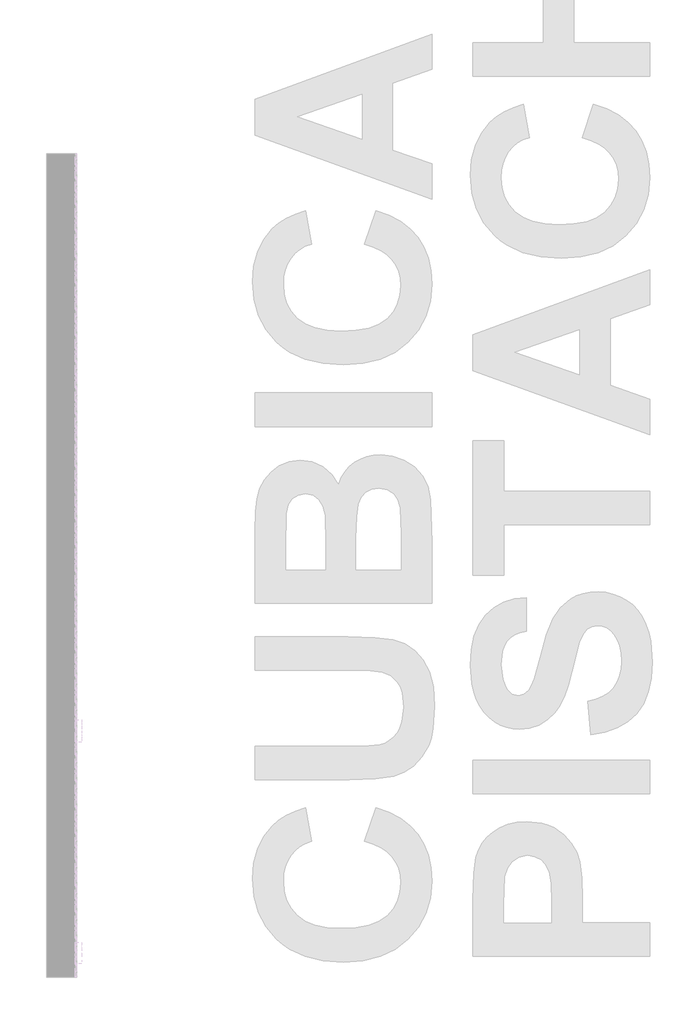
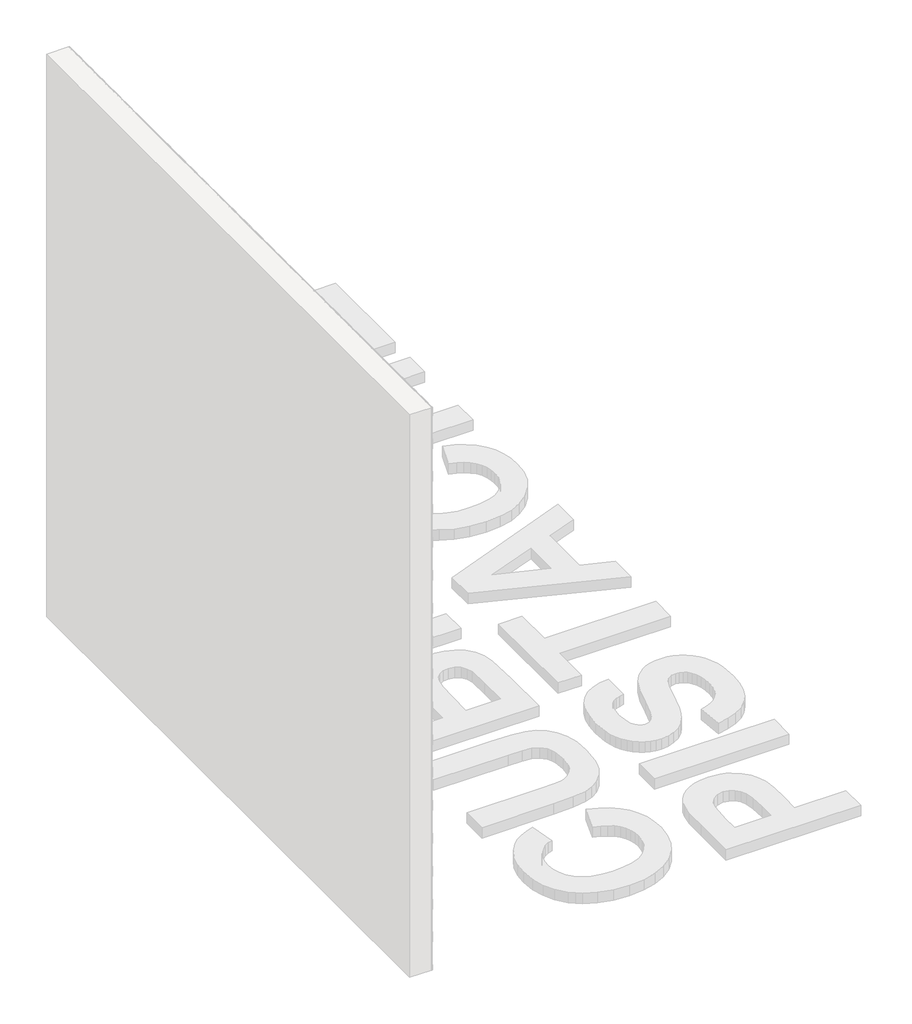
# One storey, part 78 of 121: 145 proxies.
"""IFC4 building model written with IfcOpenShell, lengths in millimetres."""

from ifc_helpers import new_model, si_unit, origin, place, context, project, spatial, transform, mapped, element, save
from components import generic_models_b2b2c5c1, generic_models_9bf73f6f, generic_models_5d175859

model = new_model("IFC4")

# Units and contexts
model_context = context("Model", 3, world=origin())
ifc_project = project(units=[si_unit("LENGTHUNIT", "METRE", prefix="MILLI")], contexts=[model_context])

# Site, building, storey
site = spatial("IfcSite", under=ifc_project)
building = spatial("IfcBuilding", under=site)
storey = spatial("IfcBuildingStorey", under=building, Name="PORTOBELLO - SHOWROOM", Elevation=0.0)

# Proxies
placement = place(None, origin())
generic_models_shape = generic_models_b2b2c5c1(model_context)
element("IfcBuildingElementProxy", 1, Name="PBSHOP - CUBICA PISTACHE 4,8X8,3 : CUBICA PISTACHE - POSIÇÃO 01", ObjectType="PBSHOP - CUBICA PISTACHE 4,8X8,3 : CUBICA PISTACHE - POSIÇÃO 01", at=placement, inside=storey, context=model_context, shape_type="MappedRepresentation", body=[
    mapped(generic_models_shape, transform((150369.5341846, 13614.1011688, 828.7685506), x_axis=(0.0, 1.0, 0.0), y_axis=(0.0, 0.0, 1.0), z_axis=(1.0, 0.0, 0.0))),
])
element("IfcBuildingElementProxy", 2, Name="PBSHOP - CUBICA PISTACHE 4,8X8,3 : CUBICA PISTACHE - POSIÇÃO 01", ObjectType="PBSHOP - CUBICA PISTACHE 4,8X8,3 : CUBICA PISTACHE - POSIÇÃO 01", at=placement, inside=storey, context=model_context, shape_type="MappedRepresentation", body=[
    mapped(generic_models_shape, transform((150369.5341846, 13704.940438, 828.7685506), x_axis=(0.0, 1.0, 0.0), y_axis=(0.0, 0.0, 1.0), z_axis=(1.0, 0.0, 0.0))),
])
element("IfcBuildingElementProxy", 3, Name="PBSHOP - CUBICA PISTACHE 4,8X8,3 : CUBICA PISTACHE - POSIÇÃO 01", ObjectType="PBSHOP - CUBICA PISTACHE 4,8X8,3 : CUBICA PISTACHE - POSIÇÃO 01", at=placement, inside=storey, context=model_context, shape_type="MappedRepresentation", body=[
    mapped(generic_models_shape, transform((150369.5341846, 13795.7797073, 828.7685506), x_axis=(0.0, 1.0, 0.0), y_axis=(0.0, 0.0, 1.0), z_axis=(1.0, 0.0, 0.0))),
])
element("IfcBuildingElementProxy", 4, Name="PBSHOP - CUBICA PISTACHE 4,8X8,3 : CUBICA PISTACHE - POSIÇÃO 01", ObjectType="PBSHOP - CUBICA PISTACHE 4,8X8,3 : CUBICA PISTACHE - POSIÇÃO 01", at=placement, inside=storey, context=model_context, shape_type="MappedRepresentation", body=[
    mapped(generic_models_shape, transform((150369.5341846, 13886.6189765, 828.7685506), x_axis=(0.0, 1.0, 0.0), y_axis=(0.0, 0.0, 1.0), z_axis=(1.0, 0.0, 0.0))),
])
element("IfcBuildingElementProxy", 5, Name="PBSHOP - CUBICA PISTACHE 4,8X8,3 : CUBICA PISTACHE - POSIÇÃO 01", ObjectType="PBSHOP - CUBICA PISTACHE 4,8X8,3 : CUBICA PISTACHE - POSIÇÃO 01", at=placement, inside=storey, context=model_context, shape_type="MappedRepresentation", body=[
    mapped(generic_models_shape, transform((150369.5341846, 13977.4582457, 828.7685506), x_axis=(0.0, 1.0, 0.0), y_axis=(0.0, 0.0, 1.0), z_axis=(1.0, 0.0, 0.0))),
])
element("IfcBuildingElementProxy", 6, Name="PBSHOP - CUBICA PISTACHE 4,8X8,3 : CUBICA PISTACHE - POSIÇÃO 01", ObjectType="PBSHOP - CUBICA PISTACHE 4,8X8,3 : CUBICA PISTACHE - POSIÇÃO 01", at=placement, inside=storey, context=model_context, shape_type="MappedRepresentation", body=[
    mapped(generic_models_shape, transform((150369.5341846, 13023.6459187, 907.7031889), x_axis=(0.0, 1.0, 0.0), y_axis=(0.0, 0.0, 1.0), z_axis=(1.0, 0.0, 0.0))),
])
element("IfcBuildingElementProxy", 7, Name="PBSHOP - CUBICA PISTACHE 4,8X8,3 : CUBICA PISTACHE - POSIÇÃO 01", ObjectType="PBSHOP - CUBICA PISTACHE 4,8X8,3 : CUBICA PISTACHE - POSIÇÃO 01", at=placement, inside=storey, context=model_context, shape_type="MappedRepresentation", body=[
    mapped(generic_models_shape, transform((150369.5341846, 13114.4851879, 907.7031889), x_axis=(0.0, 1.0, 0.0), y_axis=(0.0, 0.0, 1.0), z_axis=(1.0, 0.0, 0.0))),
])
element("IfcBuildingElementProxy", 8, Name="PBSHOP - CUBICA PISTACHE 4,8X8,3 : CUBICA PISTACHE - POSIÇÃO 01", ObjectType="PBSHOP - CUBICA PISTACHE 4,8X8,3 : CUBICA PISTACHE - POSIÇÃO 01", at=placement, inside=storey, context=model_context, shape_type="MappedRepresentation", body=[
    mapped(generic_models_shape, transform((150369.5341846, 13205.3244572, 907.7031889), x_axis=(0.0, 1.0, 0.0), y_axis=(0.0, 0.0, 1.0), z_axis=(1.0, 0.0, 0.0))),
])
element("IfcBuildingElementProxy", 9, Name="PBSHOP - CUBICA PISTACHE 4,8X8,3 : CUBICA PISTACHE - POSIÇÃO 01", ObjectType="PBSHOP - CUBICA PISTACHE 4,8X8,3 : CUBICA PISTACHE - POSIÇÃO 01", at=placement, inside=storey, context=model_context, shape_type="MappedRepresentation", body=[
    mapped(generic_models_shape, transform((150369.5341846, 13296.1637264, 907.7031889), x_axis=(0.0, 1.0, 0.0), y_axis=(0.0, 0.0, 1.0), z_axis=(1.0, 0.0, 0.0))),
])
element("IfcBuildingElementProxy", 10, Name="PBSHOP - CUBICA PISTACHE 4,8X8,3 : CUBICA PISTACHE - POSIÇÃO 01", ObjectType="PBSHOP - CUBICA PISTACHE 4,8X8,3 : CUBICA PISTACHE - POSIÇÃO 01", at=placement, inside=storey, context=model_context, shape_type="MappedRepresentation", body=[
    mapped(generic_models_shape, transform((150369.5341846, 13387.0029957, 907.7031889), x_axis=(0.0, 1.0, 0.0), y_axis=(0.0, 0.0, 1.0), z_axis=(1.0, 0.0, 0.0))),
])
element("IfcBuildingElementProxy", 11, Name="PBSHOP - CUBICA PISTACHE 4,8X8,3 : CUBICA PISTACHE - POSIÇÃO 01", ObjectType="PBSHOP - CUBICA PISTACHE 4,8X8,3 : CUBICA PISTACHE - POSIÇÃO 01", at=placement, inside=storey, context=model_context, shape_type="MappedRepresentation", body=[
    mapped(generic_models_shape, transform((150369.5341846, 13477.8422649, 907.7031889), x_axis=(0.0, 1.0, 0.0), y_axis=(0.0, 0.0, 1.0), z_axis=(1.0, 0.0, 0.0))),
])
element("IfcBuildingElementProxy", 12, Name="PBSHOP - CUBICA PISTACHE 4,8X8,3 : CUBICA PISTACHE - POSIÇÃO 01", ObjectType="PBSHOP - CUBICA PISTACHE 4,8X8,3 : CUBICA PISTACHE - POSIÇÃO 01", at=placement, inside=storey, context=model_context, shape_type="MappedRepresentation", body=[
    mapped(generic_models_shape, transform((150369.5341846, 13568.6815341, 907.7031889), x_axis=(0.0, 1.0, 0.0), y_axis=(0.0, 0.0, 1.0), z_axis=(1.0, 0.0, 0.0))),
])
element("IfcBuildingElementProxy", 13, Name="PBSHOP - CUBICA PISTACHE 4,8X8,3 : CUBICA PISTACHE - POSIÇÃO 01", ObjectType="PBSHOP - CUBICA PISTACHE 4,8X8,3 : CUBICA PISTACHE - POSIÇÃO 01", at=placement, inside=storey, context=model_context, shape_type="MappedRepresentation", body=[
    mapped(generic_models_shape, transform((150369.5341846, 13659.5208034, 907.7031889), x_axis=(0.0, 1.0, 0.0), y_axis=(0.0, 0.0, 1.0), z_axis=(1.0, 0.0, 0.0))),
])
element("IfcBuildingElementProxy", 14, Name="PBSHOP - CUBICA PISTACHE 4,8X8,3 : CUBICA PISTACHE - POSIÇÃO 01", ObjectType="PBSHOP - CUBICA PISTACHE 4,8X8,3 : CUBICA PISTACHE - POSIÇÃO 01", at=placement, inside=storey, context=model_context, shape_type="MappedRepresentation", body=[
    mapped(generic_models_shape, transform((150369.5341846, 13750.3600726, 907.7031889), x_axis=(0.0, 1.0, 0.0), y_axis=(0.0, 0.0, 1.0), z_axis=(1.0, 0.0, 0.0))),
])
element("IfcBuildingElementProxy", 15, Name="PBSHOP - CUBICA PISTACHE 4,8X8,3 : CUBICA PISTACHE - POSIÇÃO 01", ObjectType="PBSHOP - CUBICA PISTACHE 4,8X8,3 : CUBICA PISTACHE - POSIÇÃO 01", at=placement, inside=storey, context=model_context, shape_type="MappedRepresentation", body=[
    mapped(generic_models_shape, transform((150369.5341846, 13841.1993419, 907.7031889), x_axis=(0.0, 1.0, 0.0), y_axis=(0.0, 0.0, 1.0), z_axis=(1.0, 0.0, 0.0))),
])
element("IfcBuildingElementProxy", 16, Name="PBSHOP - CUBICA PISTACHE 4,8X8,3 : CUBICA PISTACHE - POSIÇÃO 01", ObjectType="PBSHOP - CUBICA PISTACHE 4,8X8,3 : CUBICA PISTACHE - POSIÇÃO 01", at=placement, inside=storey, context=model_context, shape_type="MappedRepresentation", body=[
    mapped(generic_models_shape, transform((150369.5341846, 13932.0386111, 907.7031889), x_axis=(0.0, 1.0, 0.0), y_axis=(0.0, 0.0, 1.0), z_axis=(1.0, 0.0, 0.0))),
])
element("IfcBuildingElementProxy", 17, Name="PBSHOP - CUBICA PISTACHE 4,8X8,3 : CUBICA PISTACHE - POSIÇÃO 01", ObjectType="PBSHOP - CUBICA PISTACHE 4,8X8,3 : CUBICA PISTACHE - POSIÇÃO 01", at=placement, inside=storey, context=model_context, shape_type="MappedRepresentation", body=[
    mapped(generic_models_shape, transform((150369.5341846, 13069.0655533, 986.6378273), x_axis=(0.0, 1.0, 0.0), y_axis=(0.0, 0.0, 1.0), z_axis=(1.0, 0.0, 0.0))),
])
element("IfcBuildingElementProxy", 18, Name="PBSHOP - CUBICA PISTACHE 4,8X8,3 : CUBICA PISTACHE - POSIÇÃO 01", ObjectType="PBSHOP - CUBICA PISTACHE 4,8X8,3 : CUBICA PISTACHE - POSIÇÃO 01", at=placement, inside=storey, context=model_context, shape_type="MappedRepresentation", body=[
    mapped(generic_models_shape, transform((150369.5341846, 13159.9048225, 986.6378273), x_axis=(0.0, 1.0, 0.0), y_axis=(0.0, 0.0, 1.0), z_axis=(1.0, 0.0, 0.0))),
])
element("IfcBuildingElementProxy", 19, Name="PBSHOP - CUBICA PISTACHE 4,8X8,3 : CUBICA PISTACHE - POSIÇÃO 01", ObjectType="PBSHOP - CUBICA PISTACHE 4,8X8,3 : CUBICA PISTACHE - POSIÇÃO 01", at=placement, inside=storey, context=model_context, shape_type="MappedRepresentation", body=[
    mapped(generic_models_shape, transform((150369.5341846, 13250.7440918, 986.6378273), x_axis=(0.0, 1.0, 0.0), y_axis=(0.0, 0.0, 1.0), z_axis=(1.0, 0.0, 0.0))),
])
element("IfcBuildingElementProxy", 20, Name="PBSHOP - CUBICA PISTACHE 4,8X8,3 : CUBICA PISTACHE - POSIÇÃO 01", ObjectType="PBSHOP - CUBICA PISTACHE 4,8X8,3 : CUBICA PISTACHE - POSIÇÃO 01", at=placement, inside=storey, context=model_context, shape_type="MappedRepresentation", body=[
    mapped(generic_models_shape, transform((150369.5341846, 13341.583361, 986.6378273), x_axis=(0.0, 1.0, 0.0), y_axis=(0.0, 0.0, 1.0), z_axis=(1.0, 0.0, 0.0))),
])
element("IfcBuildingElementProxy", 21, Name="PBSHOP - CUBICA PISTACHE 4,8X8,3 : CUBICA PISTACHE - POSIÇÃO 01", ObjectType="PBSHOP - CUBICA PISTACHE 4,8X8,3 : CUBICA PISTACHE - POSIÇÃO 01", at=placement, inside=storey, context=model_context, shape_type="MappedRepresentation", body=[
    mapped(generic_models_shape, transform((150369.5341846, 13432.4226303, 986.6378273), x_axis=(0.0, 1.0, 0.0), y_axis=(0.0, 0.0, 1.0), z_axis=(1.0, 0.0, 0.0))),
])
element("IfcBuildingElementProxy", 22, Name="PBSHOP - CUBICA PISTACHE 4,8X8,3 : CUBICA PISTACHE - POSIÇÃO 01", ObjectType="PBSHOP - CUBICA PISTACHE 4,8X8,3 : CUBICA PISTACHE - POSIÇÃO 01", at=placement, inside=storey, context=model_context, shape_type="MappedRepresentation", body=[
    mapped(generic_models_shape, transform((150369.5341846, 13523.2618995, 986.6378273), x_axis=(0.0, 1.0, 0.0), y_axis=(0.0, 0.0, 1.0), z_axis=(1.0, 0.0, 0.0))),
])
element("IfcBuildingElementProxy", 23, Name="PBSHOP - CUBICA PISTACHE 4,8X8,3 : CUBICA PISTACHE - POSIÇÃO 01", ObjectType="PBSHOP - CUBICA PISTACHE 4,8X8,3 : CUBICA PISTACHE - POSIÇÃO 01", at=placement, inside=storey, context=model_context, shape_type="MappedRepresentation", body=[
    mapped(generic_models_shape, transform((150369.5341846, 13614.1011688, 986.6378273), x_axis=(0.0, 1.0, 0.0), y_axis=(0.0, 0.0, 1.0), z_axis=(1.0, 0.0, 0.0))),
])
element("IfcBuildingElementProxy", 24, Name="PBSHOP - CUBICA PISTACHE 4,8X8,3 : CUBICA PISTACHE - POSIÇÃO 01", ObjectType="PBSHOP - CUBICA PISTACHE 4,8X8,3 : CUBICA PISTACHE - POSIÇÃO 01", at=placement, inside=storey, context=model_context, shape_type="MappedRepresentation", body=[
    mapped(generic_models_shape, transform((150369.5341846, 13704.940438, 986.6378273), x_axis=(0.0, 1.0, 0.0), y_axis=(0.0, 0.0, 1.0), z_axis=(1.0, 0.0, 0.0))),
])
element("IfcBuildingElementProxy", 25, Name="PBSHOP - CUBICA PISTACHE 4,8X8,3 : CUBICA PISTACHE - POSIÇÃO 01", ObjectType="PBSHOP - CUBICA PISTACHE 4,8X8,3 : CUBICA PISTACHE - POSIÇÃO 01", at=placement, inside=storey, context=model_context, shape_type="MappedRepresentation", body=[
    mapped(generic_models_shape, transform((150369.5341846, 13795.7797073, 986.6378273), x_axis=(0.0, 1.0, 0.0), y_axis=(0.0, 0.0, 1.0), z_axis=(1.0, 0.0, 0.0))),
])
element("IfcBuildingElementProxy", 26, Name="PBSHOP - CUBICA PISTACHE 4,8X8,3 : CUBICA PISTACHE - POSIÇÃO 01", ObjectType="PBSHOP - CUBICA PISTACHE 4,8X8,3 : CUBICA PISTACHE - POSIÇÃO 01", at=placement, inside=storey, context=model_context, shape_type="MappedRepresentation", body=[
    mapped(generic_models_shape, transform((150369.5341846, 13886.6189765, 986.6378273), x_axis=(0.0, 1.0, 0.0), y_axis=(0.0, 0.0, 1.0), z_axis=(1.0, 0.0, 0.0))),
])
element("IfcBuildingElementProxy", 27, Name="PBSHOP - CUBICA PISTACHE 4,8X8,3 : CUBICA PISTACHE - POSIÇÃO 01", ObjectType="PBSHOP - CUBICA PISTACHE 4,8X8,3 : CUBICA PISTACHE - POSIÇÃO 01", at=placement, inside=storey, context=model_context, shape_type="MappedRepresentation", body=[
    mapped(generic_models_shape, transform((150369.5341846, 13977.4582457, 986.6378273), x_axis=(0.0, 1.0, 0.0), y_axis=(0.0, 0.0, 1.0), z_axis=(1.0, 0.0, 0.0))),
])
element("IfcBuildingElementProxy", 28, Name="PBSHOP - CUBICA PISTACHE 4,8X8,3 : CUBICA PISTACHE - POSIÇÃO 01", ObjectType="PBSHOP - CUBICA PISTACHE 4,8X8,3 : CUBICA PISTACHE - POSIÇÃO 01", at=placement, inside=storey, context=model_context, shape_type="MappedRepresentation", body=[
    mapped(generic_models_shape, transform((150369.5341846, 13023.6459187, 1065.5724657), x_axis=(0.0, 1.0, 0.0), y_axis=(0.0, 0.0, 1.0), z_axis=(1.0, 0.0, 0.0))),
])
element("IfcBuildingElementProxy", 29, Name="PBSHOP - CUBICA PISTACHE 4,8X8,3 : CUBICA PISTACHE - POSIÇÃO 01", ObjectType="PBSHOP - CUBICA PISTACHE 4,8X8,3 : CUBICA PISTACHE - POSIÇÃO 01", at=placement, inside=storey, context=model_context, shape_type="MappedRepresentation", body=[
    mapped(generic_models_shape, transform((150369.5341846, 13114.4851879, 1065.5724657), x_axis=(0.0, 1.0, 0.0), y_axis=(0.0, 0.0, 1.0), z_axis=(1.0, 0.0, 0.0))),
])
element("IfcBuildingElementProxy", 30, Name="PBSHOP - CUBICA PISTACHE 4,8X8,3 : CUBICA PISTACHE - POSIÇÃO 01", ObjectType="PBSHOP - CUBICA PISTACHE 4,8X8,3 : CUBICA PISTACHE - POSIÇÃO 01", at=placement, inside=storey, context=model_context, shape_type="MappedRepresentation", body=[
    mapped(generic_models_shape, transform((150369.5341846, 13205.3244572, 1065.5724657), x_axis=(0.0, 1.0, 0.0), y_axis=(0.0, 0.0, 1.0), z_axis=(1.0, 0.0, 0.0))),
])
element("IfcBuildingElementProxy", 31, Name="PBSHOP - CUBICA PISTACHE 4,8X8,3 : CUBICA PISTACHE - POSIÇÃO 01", ObjectType="PBSHOP - CUBICA PISTACHE 4,8X8,3 : CUBICA PISTACHE - POSIÇÃO 01", at=placement, inside=storey, context=model_context, shape_type="MappedRepresentation", body=[
    mapped(generic_models_shape, transform((150369.5341846, 13296.1637264, 1065.5724657), x_axis=(0.0, 1.0, 0.0), y_axis=(0.0, 0.0, 1.0), z_axis=(1.0, 0.0, 0.0))),
])
element("IfcBuildingElementProxy", 32, Name="PBSHOP - CUBICA PISTACHE 4,8X8,3 : CUBICA PISTACHE - POSIÇÃO 01", ObjectType="PBSHOP - CUBICA PISTACHE 4,8X8,3 : CUBICA PISTACHE - POSIÇÃO 01", at=placement, inside=storey, context=model_context, shape_type="MappedRepresentation", body=[
    mapped(generic_models_shape, transform((150369.5341846, 13387.0029957, 1065.5724657), x_axis=(0.0, 1.0, 0.0), y_axis=(0.0, 0.0, 1.0), z_axis=(1.0, 0.0, 0.0))),
])
element("IfcBuildingElementProxy", 33, Name="PBSHOP - CUBICA PISTACHE 4,8X8,3 : CUBICA PISTACHE - POSIÇÃO 01", ObjectType="PBSHOP - CUBICA PISTACHE 4,8X8,3 : CUBICA PISTACHE - POSIÇÃO 01", at=placement, inside=storey, context=model_context, shape_type="MappedRepresentation", body=[
    mapped(generic_models_shape, transform((150369.5341846, 13477.8422649, 1065.5724657), x_axis=(0.0, 1.0, 0.0), y_axis=(0.0, 0.0, 1.0), z_axis=(1.0, 0.0, 0.0))),
])
element("IfcBuildingElementProxy", 34, Name="PBSHOP - CUBICA PISTACHE 4,8X8,3 : CUBICA PISTACHE - POSIÇÃO 01", ObjectType="PBSHOP - CUBICA PISTACHE 4,8X8,3 : CUBICA PISTACHE - POSIÇÃO 01", at=placement, inside=storey, context=model_context, shape_type="MappedRepresentation", body=[
    mapped(generic_models_shape, transform((150369.5341846, 13568.6815341, 1065.5724657), x_axis=(0.0, 1.0, 0.0), y_axis=(0.0, 0.0, 1.0), z_axis=(1.0, 0.0, 0.0))),
])
element("IfcBuildingElementProxy", 35, Name="PBSHOP - CUBICA PISTACHE 4,8X8,3 : CUBICA PISTACHE - POSIÇÃO 01", ObjectType="PBSHOP - CUBICA PISTACHE 4,8X8,3 : CUBICA PISTACHE - POSIÇÃO 01", at=placement, inside=storey, context=model_context, shape_type="MappedRepresentation", body=[
    mapped(generic_models_shape, transform((150369.5341846, 13659.5208034, 1065.5724657), x_axis=(0.0, 1.0, 0.0), y_axis=(0.0, 0.0, 1.0), z_axis=(1.0, 0.0, 0.0))),
])
element("IfcBuildingElementProxy", 36, Name="PBSHOP - CUBICA PISTACHE 4,8X8,3 : CUBICA PISTACHE - POSIÇÃO 01", ObjectType="PBSHOP - CUBICA PISTACHE 4,8X8,3 : CUBICA PISTACHE - POSIÇÃO 01", at=placement, inside=storey, context=model_context, shape_type="MappedRepresentation", body=[
    mapped(generic_models_shape, transform((150369.5341846, 13750.3600726, 1065.5724657), x_axis=(0.0, 1.0, 0.0), y_axis=(0.0, 0.0, 1.0), z_axis=(1.0, 0.0, 0.0))),
])
element("IfcBuildingElementProxy", 37, Name="PBSHOP - CUBICA PISTACHE 4,8X8,3 : CUBICA PISTACHE - POSIÇÃO 01", ObjectType="PBSHOP - CUBICA PISTACHE 4,8X8,3 : CUBICA PISTACHE - POSIÇÃO 01", at=placement, inside=storey, context=model_context, shape_type="MappedRepresentation", body=[
    mapped(generic_models_shape, transform((150369.5341846, 13841.1993419, 1065.5724657), x_axis=(0.0, 1.0, 0.0), y_axis=(0.0, 0.0, 1.0), z_axis=(1.0, 0.0, 0.0))),
])
element("IfcBuildingElementProxy", 38, Name="PBSHOP - CUBICA PISTACHE 4,8X8,3 : CUBICA PISTACHE - POSIÇÃO 01", ObjectType="PBSHOP - CUBICA PISTACHE 4,8X8,3 : CUBICA PISTACHE - POSIÇÃO 01", at=placement, inside=storey, context=model_context, shape_type="MappedRepresentation", body=[
    mapped(generic_models_shape, transform((150369.5341846, 13932.0386111, 1065.5724657), x_axis=(0.0, 1.0, 0.0), y_axis=(0.0, 0.0, 1.0), z_axis=(1.0, 0.0, 0.0))),
])
element("IfcBuildingElementProxy", 39, Name="PBSHOP - CUBICA PISTACHE 4,8X8,3 : CUBICA PISTACHE - POSIÇÃO 01", ObjectType="PBSHOP - CUBICA PISTACHE 4,8X8,3 : CUBICA PISTACHE - POSIÇÃO 01", at=placement, inside=storey, context=model_context, shape_type="MappedRepresentation", body=[
    mapped(generic_models_shape, transform((150369.5341846, 13069.0655533, 1144.507104), x_axis=(0.0, 1.0, 0.0), y_axis=(0.0, 0.0, 1.0), z_axis=(1.0, 0.0, 0.0))),
])
element("IfcBuildingElementProxy", 40, Name="PBSHOP - CUBICA PISTACHE 4,8X8,3 : CUBICA PISTACHE - POSIÇÃO 01", ObjectType="PBSHOP - CUBICA PISTACHE 4,8X8,3 : CUBICA PISTACHE - POSIÇÃO 01", at=placement, inside=storey, context=model_context, shape_type="MappedRepresentation", body=[
    mapped(generic_models_shape, transform((150369.5341846, 13159.9048225, 1144.507104), x_axis=(0.0, 1.0, 0.0), y_axis=(0.0, 0.0, 1.0), z_axis=(1.0, 0.0, 0.0))),
])
element("IfcBuildingElementProxy", 41, Name="PBSHOP - CUBICA PISTACHE 4,8X8,3 : CUBICA PISTACHE - POSIÇÃO 01", ObjectType="PBSHOP - CUBICA PISTACHE 4,8X8,3 : CUBICA PISTACHE - POSIÇÃO 01", at=placement, inside=storey, context=model_context, shape_type="MappedRepresentation", body=[
    mapped(generic_models_shape, transform((150369.5341846, 13250.7440918, 1144.507104), x_axis=(0.0, 1.0, 0.0), y_axis=(0.0, 0.0, 1.0), z_axis=(1.0, 0.0, 0.0))),
])
element("IfcBuildingElementProxy", 42, Name="PBSHOP - CUBICA PISTACHE 4,8X8,3 : CUBICA PISTACHE - POSIÇÃO 01", ObjectType="PBSHOP - CUBICA PISTACHE 4,8X8,3 : CUBICA PISTACHE - POSIÇÃO 01", at=placement, inside=storey, context=model_context, shape_type="MappedRepresentation", body=[
    mapped(generic_models_shape, transform((150369.5341846, 13341.583361, 1144.507104), x_axis=(0.0, 1.0, 0.0), y_axis=(0.0, 0.0, 1.0), z_axis=(1.0, 0.0, 0.0))),
])
element("IfcBuildingElementProxy", 43, Name="PBSHOP - CUBICA PISTACHE 4,8X8,3 : CUBICA PISTACHE - POSIÇÃO 01", ObjectType="PBSHOP - CUBICA PISTACHE 4,8X8,3 : CUBICA PISTACHE - POSIÇÃO 01", at=placement, inside=storey, context=model_context, shape_type="MappedRepresentation", body=[
    mapped(generic_models_shape, transform((150369.5341846, 13432.4226303, 1144.507104), x_axis=(0.0, 1.0, 0.0), y_axis=(0.0, 0.0, 1.0), z_axis=(1.0, 0.0, 0.0))),
])
element("IfcBuildingElementProxy", 44, Name="PBSHOP - CUBICA PISTACHE 4,8X8,3 : CUBICA PISTACHE - POSIÇÃO 01", ObjectType="PBSHOP - CUBICA PISTACHE 4,8X8,3 : CUBICA PISTACHE - POSIÇÃO 01", at=placement, inside=storey, context=model_context, shape_type="MappedRepresentation", body=[
    mapped(generic_models_shape, transform((150369.5341846, 13523.2618995, 1144.507104), x_axis=(0.0, 1.0, 0.0), y_axis=(0.0, 0.0, 1.0), z_axis=(1.0, 0.0, 0.0))),
])
element("IfcBuildingElementProxy", 45, Name="PBSHOP - CUBICA PISTACHE 4,8X8,3 : CUBICA PISTACHE - POSIÇÃO 01", ObjectType="PBSHOP - CUBICA PISTACHE 4,8X8,3 : CUBICA PISTACHE - POSIÇÃO 01", at=placement, inside=storey, context=model_context, shape_type="MappedRepresentation", body=[
    mapped(generic_models_shape, transform((150369.5341846, 13614.1011688, 1144.507104), x_axis=(0.0, 1.0, 0.0), y_axis=(0.0, 0.0, 1.0), z_axis=(1.0, 0.0, 0.0))),
])
element("IfcBuildingElementProxy", 46, Name="PBSHOP - CUBICA PISTACHE 4,8X8,3 : CUBICA PISTACHE - POSIÇÃO 01", ObjectType="PBSHOP - CUBICA PISTACHE 4,8X8,3 : CUBICA PISTACHE - POSIÇÃO 01", at=placement, inside=storey, context=model_context, shape_type="MappedRepresentation", body=[
    mapped(generic_models_shape, transform((150369.5341846, 13704.940438, 1144.507104), x_axis=(0.0, 1.0, 0.0), y_axis=(0.0, 0.0, 1.0), z_axis=(1.0, 0.0, 0.0))),
])
element("IfcBuildingElementProxy", 47, Name="PBSHOP - CUBICA PISTACHE 4,8X8,3 : CUBICA PISTACHE - POSIÇÃO 01", ObjectType="PBSHOP - CUBICA PISTACHE 4,8X8,3 : CUBICA PISTACHE - POSIÇÃO 01", at=placement, inside=storey, context=model_context, shape_type="MappedRepresentation", body=[
    mapped(generic_models_shape, transform((150369.5341846, 13795.7797073, 1144.507104), x_axis=(0.0, 1.0, 0.0), y_axis=(0.0, 0.0, 1.0), z_axis=(1.0, 0.0, 0.0))),
])
element("IfcBuildingElementProxy", 48, Name="PBSHOP - CUBICA PISTACHE 4,8X8,3 : CUBICA PISTACHE - POSIÇÃO 01", ObjectType="PBSHOP - CUBICA PISTACHE 4,8X8,3 : CUBICA PISTACHE - POSIÇÃO 01", at=placement, inside=storey, context=model_context, shape_type="MappedRepresentation", body=[
    mapped(generic_models_shape, transform((150369.5341846, 13886.6189765, 1144.507104), x_axis=(0.0, 1.0, 0.0), y_axis=(0.0, 0.0, 1.0), z_axis=(1.0, 0.0, 0.0))),
])
element("IfcBuildingElementProxy", 49, Name="PBSHOP - CUBICA PISTACHE 4,8X8,3 : CUBICA PISTACHE - POSIÇÃO 01", ObjectType="PBSHOP - CUBICA PISTACHE 4,8X8,3 : CUBICA PISTACHE - POSIÇÃO 01", at=placement, inside=storey, context=model_context, shape_type="MappedRepresentation", body=[
    mapped(generic_models_shape, transform((150369.5341846, 13977.4582457, 1144.507104), x_axis=(0.0, 1.0, 0.0), y_axis=(0.0, 0.0, 1.0), z_axis=(1.0, 0.0, 0.0))),
])
generic_models_2_shape = generic_models_9bf73f6f(model_context)
element("IfcBuildingElementProxy", 50, Name="PBSHOP - CUBICA PISTACHE 4,8X8,3 : CUBICA PISTACHE - POSIÇÃO 03", ObjectType="PBSHOP - CUBICA PISTACHE 4,8X8,3 : CUBICA PISTACHE - POSIÇÃO 03", at=placement, inside=storey, context=model_context, shape_type="MappedRepresentation", body=[
    mapped(generic_models_2_shape, transform((150369.5341846, 13046.3578952, 789.2600209), x_axis=(0.0, 1.0, 0.0), y_axis=(0.0, 0.0, 1.0), z_axis=(1.0, 0.0, 0.0))),
])
element("IfcBuildingElementProxy", 51, Name="PBSHOP - CUBICA PISTACHE 4,8X8,3 : CUBICA PISTACHE - POSIÇÃO 03", ObjectType="PBSHOP - CUBICA PISTACHE 4,8X8,3 : CUBICA PISTACHE - POSIÇÃO 03", at=placement, inside=storey, context=model_context, shape_type="MappedRepresentation", body=[
    mapped(generic_models_2_shape, transform((150369.5341846, 13137.1971644, 789.2600209), x_axis=(0.0, 1.0, 0.0), y_axis=(0.0, 0.0, 1.0), z_axis=(1.0, 0.0, 0.0))),
])
element("IfcBuildingElementProxy", 52, Name="PBSHOP - CUBICA PISTACHE 4,8X8,3 : CUBICA PISTACHE - POSIÇÃO 03", ObjectType="PBSHOP - CUBICA PISTACHE 4,8X8,3 : CUBICA PISTACHE - POSIÇÃO 03", at=placement, inside=storey, context=model_context, shape_type="MappedRepresentation", body=[
    mapped(generic_models_2_shape, transform((150369.5341846, 13228.0364336, 789.2600209), x_axis=(0.0, 1.0, 0.0), y_axis=(0.0, 0.0, 1.0), z_axis=(1.0, 0.0, 0.0))),
])
element("IfcBuildingElementProxy", 53, Name="PBSHOP - CUBICA PISTACHE 4,8X8,3 : CUBICA PISTACHE - POSIÇÃO 03", ObjectType="PBSHOP - CUBICA PISTACHE 4,8X8,3 : CUBICA PISTACHE - POSIÇÃO 03", at=placement, inside=storey, context=model_context, shape_type="MappedRepresentation", body=[
    mapped(generic_models_2_shape, transform((150369.5341846, 13318.8757029, 789.2600209), x_axis=(0.0, 1.0, 0.0), y_axis=(0.0, 0.0, 1.0), z_axis=(1.0, 0.0, 0.0))),
])
element("IfcBuildingElementProxy", 54, Name="PBSHOP - CUBICA PISTACHE 4,8X8,3 : CUBICA PISTACHE - POSIÇÃO 03", ObjectType="PBSHOP - CUBICA PISTACHE 4,8X8,3 : CUBICA PISTACHE - POSIÇÃO 03", at=placement, inside=storey, context=model_context, shape_type="MappedRepresentation", body=[
    mapped(generic_models_2_shape, transform((150369.5341846, 13409.7149721, 789.2600209), x_axis=(0.0, 1.0, 0.0), y_axis=(0.0, 0.0, 1.0), z_axis=(1.0, 0.0, 0.0))),
])
element("IfcBuildingElementProxy", 55, Name="PBSHOP - CUBICA PISTACHE 4,8X8,3 : CUBICA PISTACHE - POSIÇÃO 03", ObjectType="PBSHOP - CUBICA PISTACHE 4,8X8,3 : CUBICA PISTACHE - POSIÇÃO 03", at=placement, inside=storey, context=model_context, shape_type="MappedRepresentation", body=[
    mapped(generic_models_2_shape, transform((150369.5341846, 13500.5542414, 789.2600209), x_axis=(0.0, 1.0, 0.0), y_axis=(0.0, 0.0, 1.0), z_axis=(1.0, 0.0, 0.0))),
])
element("IfcBuildingElementProxy", 56, Name="PBSHOP - CUBICA PISTACHE 4,8X8,3 : CUBICA PISTACHE - POSIÇÃO 03", ObjectType="PBSHOP - CUBICA PISTACHE 4,8X8,3 : CUBICA PISTACHE - POSIÇÃO 03", at=placement, inside=storey, context=model_context, shape_type="MappedRepresentation", body=[
    mapped(generic_models_2_shape, transform((150369.5341846, 13591.3935106, 789.2600209), x_axis=(0.0, 1.0, 0.0), y_axis=(0.0, 0.0, 1.0), z_axis=(1.0, 0.0, 0.0))),
])
element("IfcBuildingElementProxy", 57, Name="PBSHOP - CUBICA PISTACHE 4,8X8,3 : CUBICA PISTACHE - POSIÇÃO 03", ObjectType="PBSHOP - CUBICA PISTACHE 4,8X8,3 : CUBICA PISTACHE - POSIÇÃO 03", at=placement, inside=storey, context=model_context, shape_type="MappedRepresentation", body=[
    mapped(generic_models_2_shape, transform((150369.5341846, 13682.2327799, 789.2600209), x_axis=(0.0, 1.0, 0.0), y_axis=(0.0, 0.0, 1.0), z_axis=(1.0, 0.0, 0.0))),
])
element("IfcBuildingElementProxy", 58, Name="PBSHOP - CUBICA PISTACHE 4,8X8,3 : CUBICA PISTACHE - POSIÇÃO 03", ObjectType="PBSHOP - CUBICA PISTACHE 4,8X8,3 : CUBICA PISTACHE - POSIÇÃO 03", at=placement, inside=storey, context=model_context, shape_type="MappedRepresentation", body=[
    mapped(generic_models_2_shape, transform((150369.5341846, 13773.0720491, 789.2600209), x_axis=(0.0, 1.0, 0.0), y_axis=(0.0, 0.0, 1.0), z_axis=(1.0, 0.0, 0.0))),
])
element("IfcBuildingElementProxy", 59, Name="PBSHOP - CUBICA PISTACHE 4,8X8,3 : CUBICA PISTACHE - POSIÇÃO 03", ObjectType="PBSHOP - CUBICA PISTACHE 4,8X8,3 : CUBICA PISTACHE - POSIÇÃO 03", at=placement, inside=storey, context=model_context, shape_type="MappedRepresentation", body=[
    mapped(generic_models_2_shape, transform((150369.5341846, 13863.9113184, 789.2600209), x_axis=(0.0, 1.0, 0.0), y_axis=(0.0, 0.0, 1.0), z_axis=(1.0, 0.0, 0.0))),
])
element("IfcBuildingElementProxy", 60, Name="PBSHOP - CUBICA PISTACHE 4,8X8,3 : CUBICA PISTACHE - POSIÇÃO 03", ObjectType="PBSHOP - CUBICA PISTACHE 4,8X8,3 : CUBICA PISTACHE - POSIÇÃO 03", at=placement, inside=storey, context=model_context, shape_type="MappedRepresentation", body=[
    mapped(generic_models_2_shape, transform((150369.5341846, 13954.7505876, 789.2600209), x_axis=(0.0, 1.0, 0.0), y_axis=(0.0, 0.0, 1.0), z_axis=(1.0, 0.0, 0.0))),
])
element("IfcBuildingElementProxy", 61, Name="PBSHOP - CUBICA PISTACHE 4,8X8,3 : CUBICA PISTACHE - POSIÇÃO 03", ObjectType="PBSHOP - CUBICA PISTACHE 4,8X8,3 : CUBICA PISTACHE - POSIÇÃO 03", at=placement, inside=storey, context=model_context, shape_type="MappedRepresentation", body=[
    mapped(generic_models_2_shape, transform((150369.5341846, 13000.9382605, 868.1946593), x_axis=(0.0, 1.0, 0.0), y_axis=(0.0, 0.0, 1.0), z_axis=(1.0, 0.0, 0.0))),
])
element("IfcBuildingElementProxy", 62, Name="PBSHOP - CUBICA PISTACHE 4,8X8,3 : CUBICA PISTACHE - POSIÇÃO 03", ObjectType="PBSHOP - CUBICA PISTACHE 4,8X8,3 : CUBICA PISTACHE - POSIÇÃO 03", at=placement, inside=storey, context=model_context, shape_type="MappedRepresentation", body=[
    mapped(generic_models_2_shape, transform((150369.5341846, 13091.7775298, 868.1946593), x_axis=(0.0, 1.0, 0.0), y_axis=(0.0, 0.0, 1.0), z_axis=(1.0, 0.0, 0.0))),
])
element("IfcBuildingElementProxy", 63, Name="PBSHOP - CUBICA PISTACHE 4,8X8,3 : CUBICA PISTACHE - POSIÇÃO 03", ObjectType="PBSHOP - CUBICA PISTACHE 4,8X8,3 : CUBICA PISTACHE - POSIÇÃO 03", at=placement, inside=storey, context=model_context, shape_type="MappedRepresentation", body=[
    mapped(generic_models_2_shape, transform((150369.5341846, 13182.616799, 868.1946593), x_axis=(0.0, 1.0, 0.0), y_axis=(0.0, 0.0, 1.0), z_axis=(1.0, 0.0, 0.0))),
])
element("IfcBuildingElementProxy", 64, Name="PBSHOP - CUBICA PISTACHE 4,8X8,3 : CUBICA PISTACHE - POSIÇÃO 03", ObjectType="PBSHOP - CUBICA PISTACHE 4,8X8,3 : CUBICA PISTACHE - POSIÇÃO 03", at=placement, inside=storey, context=model_context, shape_type="MappedRepresentation", body=[
    mapped(generic_models_2_shape, transform((150369.5341846, 13273.4560683, 868.1946593), x_axis=(0.0, 1.0, 0.0), y_axis=(0.0, 0.0, 1.0), z_axis=(1.0, 0.0, 0.0))),
])
element("IfcBuildingElementProxy", 65, Name="PBSHOP - CUBICA PISTACHE 4,8X8,3 : CUBICA PISTACHE - POSIÇÃO 03", ObjectType="PBSHOP - CUBICA PISTACHE 4,8X8,3 : CUBICA PISTACHE - POSIÇÃO 03", at=placement, inside=storey, context=model_context, shape_type="MappedRepresentation", body=[
    mapped(generic_models_2_shape, transform((150369.5341846, 13364.2953375, 868.1946593), x_axis=(0.0, 1.0, 0.0), y_axis=(0.0, 0.0, 1.0), z_axis=(1.0, 0.0, 0.0))),
])
element("IfcBuildingElementProxy", 66, Name="PBSHOP - CUBICA PISTACHE 4,8X8,3 : CUBICA PISTACHE - POSIÇÃO 03", ObjectType="PBSHOP - CUBICA PISTACHE 4,8X8,3 : CUBICA PISTACHE - POSIÇÃO 03", at=placement, inside=storey, context=model_context, shape_type="MappedRepresentation", body=[
    mapped(generic_models_2_shape, transform((150369.5341846, 13455.1346068, 868.1946593), x_axis=(0.0, 1.0, 0.0), y_axis=(0.0, 0.0, 1.0), z_axis=(1.0, 0.0, 0.0))),
])
element("IfcBuildingElementProxy", 67, Name="PBSHOP - CUBICA PISTACHE 4,8X8,3 : CUBICA PISTACHE - POSIÇÃO 03", ObjectType="PBSHOP - CUBICA PISTACHE 4,8X8,3 : CUBICA PISTACHE - POSIÇÃO 03", at=placement, inside=storey, context=model_context, shape_type="MappedRepresentation", body=[
    mapped(generic_models_2_shape, transform((150369.5341846, 13545.973876, 868.1946593), x_axis=(0.0, 1.0, 0.0), y_axis=(0.0, 0.0, 1.0), z_axis=(1.0, 0.0, 0.0))),
])
element("IfcBuildingElementProxy", 68, Name="PBSHOP - CUBICA PISTACHE 4,8X8,3 : CUBICA PISTACHE - POSIÇÃO 03", ObjectType="PBSHOP - CUBICA PISTACHE 4,8X8,3 : CUBICA PISTACHE - POSIÇÃO 03", at=placement, inside=storey, context=model_context, shape_type="MappedRepresentation", body=[
    mapped(generic_models_2_shape, transform((150369.5341846, 13636.8131452, 868.1946593), x_axis=(0.0, 1.0, 0.0), y_axis=(0.0, 0.0, 1.0), z_axis=(1.0, 0.0, 0.0))),
])
element("IfcBuildingElementProxy", 69, Name="PBSHOP - CUBICA PISTACHE 4,8X8,3 : CUBICA PISTACHE - POSIÇÃO 03", ObjectType="PBSHOP - CUBICA PISTACHE 4,8X8,3 : CUBICA PISTACHE - POSIÇÃO 03", at=placement, inside=storey, context=model_context, shape_type="MappedRepresentation", body=[
    mapped(generic_models_2_shape, transform((150369.5341846, 13727.6524145, 868.1946593), x_axis=(0.0, 1.0, 0.0), y_axis=(0.0, 0.0, 1.0), z_axis=(1.0, 0.0, 0.0))),
])
element("IfcBuildingElementProxy", 70, Name="PBSHOP - CUBICA PISTACHE 4,8X8,3 : CUBICA PISTACHE - POSIÇÃO 03", ObjectType="PBSHOP - CUBICA PISTACHE 4,8X8,3 : CUBICA PISTACHE - POSIÇÃO 03", at=placement, inside=storey, context=model_context, shape_type="MappedRepresentation", body=[
    mapped(generic_models_2_shape, transform((150369.5341846, 13818.4916837, 868.1946593), x_axis=(0.0, 1.0, 0.0), y_axis=(0.0, 0.0, 1.0), z_axis=(1.0, 0.0, 0.0))),
])
element("IfcBuildingElementProxy", 71, Name="PBSHOP - CUBICA PISTACHE 4,8X8,3 : CUBICA PISTACHE - POSIÇÃO 03", ObjectType="PBSHOP - CUBICA PISTACHE 4,8X8,3 : CUBICA PISTACHE - POSIÇÃO 03", at=placement, inside=storey, context=model_context, shape_type="MappedRepresentation", body=[
    mapped(generic_models_2_shape, transform((150369.5341846, 13909.330953, 868.1946593), x_axis=(0.0, 1.0, 0.0), y_axis=(0.0, 0.0, 1.0), z_axis=(1.0, 0.0, 0.0))),
])
element("IfcBuildingElementProxy", 72, Name="PBSHOP - CUBICA PISTACHE 4,8X8,3 : CUBICA PISTACHE - POSIÇÃO 03", ObjectType="PBSHOP - CUBICA PISTACHE 4,8X8,3 : CUBICA PISTACHE - POSIÇÃO 03", at=placement, inside=storey, context=model_context, shape_type="MappedRepresentation", body=[
    mapped(generic_models_2_shape, transform((150369.5341846, 13046.3578952, 947.1292977), x_axis=(0.0, 1.0, 0.0), y_axis=(0.0, 0.0, 1.0), z_axis=(1.0, 0.0, 0.0))),
])
element("IfcBuildingElementProxy", 73, Name="PBSHOP - CUBICA PISTACHE 4,8X8,3 : CUBICA PISTACHE - POSIÇÃO 03", ObjectType="PBSHOP - CUBICA PISTACHE 4,8X8,3 : CUBICA PISTACHE - POSIÇÃO 03", at=placement, inside=storey, context=model_context, shape_type="MappedRepresentation", body=[
    mapped(generic_models_2_shape, transform((150369.5341846, 13137.1971644, 947.1292977), x_axis=(0.0, 1.0, 0.0), y_axis=(0.0, 0.0, 1.0), z_axis=(1.0, 0.0, 0.0))),
])
element("IfcBuildingElementProxy", 74, Name="PBSHOP - CUBICA PISTACHE 4,8X8,3 : CUBICA PISTACHE - POSIÇÃO 03", ObjectType="PBSHOP - CUBICA PISTACHE 4,8X8,3 : CUBICA PISTACHE - POSIÇÃO 03", at=placement, inside=storey, context=model_context, shape_type="MappedRepresentation", body=[
    mapped(generic_models_2_shape, transform((150369.5341846, 13228.0364336, 947.1292977), x_axis=(0.0, 1.0, 0.0), y_axis=(0.0, 0.0, 1.0), z_axis=(1.0, 0.0, 0.0))),
])
element("IfcBuildingElementProxy", 75, Name="PBSHOP - CUBICA PISTACHE 4,8X8,3 : CUBICA PISTACHE - POSIÇÃO 03", ObjectType="PBSHOP - CUBICA PISTACHE 4,8X8,3 : CUBICA PISTACHE - POSIÇÃO 03", at=placement, inside=storey, context=model_context, shape_type="MappedRepresentation", body=[
    mapped(generic_models_2_shape, transform((150369.5341846, 13318.8757029, 947.1292977), x_axis=(0.0, 1.0, 0.0), y_axis=(0.0, 0.0, 1.0), z_axis=(1.0, 0.0, 0.0))),
])
element("IfcBuildingElementProxy", 76, Name="PBSHOP - CUBICA PISTACHE 4,8X8,3 : CUBICA PISTACHE - POSIÇÃO 03", ObjectType="PBSHOP - CUBICA PISTACHE 4,8X8,3 : CUBICA PISTACHE - POSIÇÃO 03", at=placement, inside=storey, context=model_context, shape_type="MappedRepresentation", body=[
    mapped(generic_models_2_shape, transform((150369.5341846, 13409.7149721, 947.1292977), x_axis=(0.0, 1.0, 0.0), y_axis=(0.0, 0.0, 1.0), z_axis=(1.0, 0.0, 0.0))),
])
element("IfcBuildingElementProxy", 77, Name="PBSHOP - CUBICA PISTACHE 4,8X8,3 : CUBICA PISTACHE - POSIÇÃO 03", ObjectType="PBSHOP - CUBICA PISTACHE 4,8X8,3 : CUBICA PISTACHE - POSIÇÃO 03", at=placement, inside=storey, context=model_context, shape_type="MappedRepresentation", body=[
    mapped(generic_models_2_shape, transform((150369.5341846, 13500.5542414, 947.1292977), x_axis=(0.0, 1.0, 0.0), y_axis=(0.0, 0.0, 1.0), z_axis=(1.0, 0.0, 0.0))),
])
element("IfcBuildingElementProxy", 78, Name="PBSHOP - CUBICA PISTACHE 4,8X8,3 : CUBICA PISTACHE - POSIÇÃO 03", ObjectType="PBSHOP - CUBICA PISTACHE 4,8X8,3 : CUBICA PISTACHE - POSIÇÃO 03", at=placement, inside=storey, context=model_context, shape_type="MappedRepresentation", body=[
    mapped(generic_models_2_shape, transform((150369.5341846, 13591.3935106, 947.1292977), x_axis=(0.0, 1.0, 0.0), y_axis=(0.0, 0.0, 1.0), z_axis=(1.0, 0.0, 0.0))),
])
element("IfcBuildingElementProxy", 79, Name="PBSHOP - CUBICA PISTACHE 4,8X8,3 : CUBICA PISTACHE - POSIÇÃO 03", ObjectType="PBSHOP - CUBICA PISTACHE 4,8X8,3 : CUBICA PISTACHE - POSIÇÃO 03", at=placement, inside=storey, context=model_context, shape_type="MappedRepresentation", body=[
    mapped(generic_models_2_shape, transform((150369.5341846, 13682.2327799, 947.1292977), x_axis=(0.0, 1.0, 0.0), y_axis=(0.0, 0.0, 1.0), z_axis=(1.0, 0.0, 0.0))),
])
element("IfcBuildingElementProxy", 80, Name="PBSHOP - CUBICA PISTACHE 4,8X8,3 : CUBICA PISTACHE - POSIÇÃO 03", ObjectType="PBSHOP - CUBICA PISTACHE 4,8X8,3 : CUBICA PISTACHE - POSIÇÃO 03", at=placement, inside=storey, context=model_context, shape_type="MappedRepresentation", body=[
    mapped(generic_models_2_shape, transform((150369.5341846, 13773.0720491, 947.1292977), x_axis=(0.0, 1.0, 0.0), y_axis=(0.0, 0.0, 1.0), z_axis=(1.0, 0.0, 0.0))),
])
element("IfcBuildingElementProxy", 81, Name="PBSHOP - CUBICA PISTACHE 4,8X8,3 : CUBICA PISTACHE - POSIÇÃO 03", ObjectType="PBSHOP - CUBICA PISTACHE 4,8X8,3 : CUBICA PISTACHE - POSIÇÃO 03", at=placement, inside=storey, context=model_context, shape_type="MappedRepresentation", body=[
    mapped(generic_models_2_shape, transform((150369.5341846, 13863.9113184, 947.1292977), x_axis=(0.0, 1.0, 0.0), y_axis=(0.0, 0.0, 1.0), z_axis=(1.0, 0.0, 0.0))),
])
element("IfcBuildingElementProxy", 82, Name="PBSHOP - CUBICA PISTACHE 4,8X8,3 : CUBICA PISTACHE - POSIÇÃO 03", ObjectType="PBSHOP - CUBICA PISTACHE 4,8X8,3 : CUBICA PISTACHE - POSIÇÃO 03", at=placement, inside=storey, context=model_context, shape_type="MappedRepresentation", body=[
    mapped(generic_models_2_shape, transform((150369.5341846, 13954.7505876, 947.1292977), x_axis=(0.0, 1.0, 0.0), y_axis=(0.0, 0.0, 1.0), z_axis=(1.0, 0.0, 0.0))),
])
element("IfcBuildingElementProxy", 83, Name="PBSHOP - CUBICA PISTACHE 4,8X8,3 : CUBICA PISTACHE - POSIÇÃO 03", ObjectType="PBSHOP - CUBICA PISTACHE 4,8X8,3 : CUBICA PISTACHE - POSIÇÃO 03", at=placement, inside=storey, context=model_context, shape_type="MappedRepresentation", body=[
    mapped(generic_models_2_shape, transform((150369.5341846, 13000.9382605, 1026.0639361), x_axis=(0.0, 1.0, 0.0), y_axis=(0.0, 0.0, 1.0), z_axis=(1.0, 0.0, 0.0))),
])
element("IfcBuildingElementProxy", 84, Name="PBSHOP - CUBICA PISTACHE 4,8X8,3 : CUBICA PISTACHE - POSIÇÃO 03", ObjectType="PBSHOP - CUBICA PISTACHE 4,8X8,3 : CUBICA PISTACHE - POSIÇÃO 03", at=placement, inside=storey, context=model_context, shape_type="MappedRepresentation", body=[
    mapped(generic_models_2_shape, transform((150369.5341846, 13091.7775298, 1026.0639361), x_axis=(0.0, 1.0, 0.0), y_axis=(0.0, 0.0, 1.0), z_axis=(1.0, 0.0, 0.0))),
])
element("IfcBuildingElementProxy", 85, Name="PBSHOP - CUBICA PISTACHE 4,8X8,3 : CUBICA PISTACHE - POSIÇÃO 03", ObjectType="PBSHOP - CUBICA PISTACHE 4,8X8,3 : CUBICA PISTACHE - POSIÇÃO 03", at=placement, inside=storey, context=model_context, shape_type="MappedRepresentation", body=[
    mapped(generic_models_2_shape, transform((150369.5341846, 13182.616799, 1026.0639361), x_axis=(0.0, 1.0, 0.0), y_axis=(0.0, 0.0, 1.0), z_axis=(1.0, 0.0, 0.0))),
])
element("IfcBuildingElementProxy", 86, Name="PBSHOP - CUBICA PISTACHE 4,8X8,3 : CUBICA PISTACHE - POSIÇÃO 03", ObjectType="PBSHOP - CUBICA PISTACHE 4,8X8,3 : CUBICA PISTACHE - POSIÇÃO 03", at=placement, inside=storey, context=model_context, shape_type="MappedRepresentation", body=[
    mapped(generic_models_2_shape, transform((150369.5341846, 13273.4560683, 1026.0639361), x_axis=(0.0, 1.0, 0.0), y_axis=(0.0, 0.0, 1.0), z_axis=(1.0, 0.0, 0.0))),
])
element("IfcBuildingElementProxy", 87, Name="PBSHOP - CUBICA PISTACHE 4,8X8,3 : CUBICA PISTACHE - POSIÇÃO 03", ObjectType="PBSHOP - CUBICA PISTACHE 4,8X8,3 : CUBICA PISTACHE - POSIÇÃO 03", at=placement, inside=storey, context=model_context, shape_type="MappedRepresentation", body=[
    mapped(generic_models_2_shape, transform((150369.5341846, 13364.2953375, 1026.0639361), x_axis=(0.0, 1.0, 0.0), y_axis=(0.0, 0.0, 1.0), z_axis=(1.0, 0.0, 0.0))),
])
element("IfcBuildingElementProxy", 88, Name="PBSHOP - CUBICA PISTACHE 4,8X8,3 : CUBICA PISTACHE - POSIÇÃO 03", ObjectType="PBSHOP - CUBICA PISTACHE 4,8X8,3 : CUBICA PISTACHE - POSIÇÃO 03", at=placement, inside=storey, context=model_context, shape_type="MappedRepresentation", body=[
    mapped(generic_models_2_shape, transform((150369.5341846, 13455.1346068, 1026.0639361), x_axis=(0.0, 1.0, 0.0), y_axis=(0.0, 0.0, 1.0), z_axis=(1.0, 0.0, 0.0))),
])
element("IfcBuildingElementProxy", 89, Name="PBSHOP - CUBICA PISTACHE 4,8X8,3 : CUBICA PISTACHE - POSIÇÃO 03", ObjectType="PBSHOP - CUBICA PISTACHE 4,8X8,3 : CUBICA PISTACHE - POSIÇÃO 03", at=placement, inside=storey, context=model_context, shape_type="MappedRepresentation", body=[
    mapped(generic_models_2_shape, transform((150369.5341846, 13545.973876, 1026.0639361), x_axis=(0.0, 1.0, 0.0), y_axis=(0.0, 0.0, 1.0), z_axis=(1.0, 0.0, 0.0))),
])
element("IfcBuildingElementProxy", 90, Name="PBSHOP - CUBICA PISTACHE 4,8X8,3 : CUBICA PISTACHE - POSIÇÃO 03", ObjectType="PBSHOP - CUBICA PISTACHE 4,8X8,3 : CUBICA PISTACHE - POSIÇÃO 03", at=placement, inside=storey, context=model_context, shape_type="MappedRepresentation", body=[
    mapped(generic_models_2_shape, transform((150369.5341846, 13636.8131452, 1026.0639361), x_axis=(0.0, 1.0, 0.0), y_axis=(0.0, 0.0, 1.0), z_axis=(1.0, 0.0, 0.0))),
])
element("IfcBuildingElementProxy", 91, Name="PBSHOP - CUBICA PISTACHE 4,8X8,3 : CUBICA PISTACHE - POSIÇÃO 03", ObjectType="PBSHOP - CUBICA PISTACHE 4,8X8,3 : CUBICA PISTACHE - POSIÇÃO 03", at=placement, inside=storey, context=model_context, shape_type="MappedRepresentation", body=[
    mapped(generic_models_2_shape, transform((150369.5341846, 13727.6524145, 1026.0639361), x_axis=(0.0, 1.0, 0.0), y_axis=(0.0, 0.0, 1.0), z_axis=(1.0, 0.0, 0.0))),
])
element("IfcBuildingElementProxy", 92, Name="PBSHOP - CUBICA PISTACHE 4,8X8,3 : CUBICA PISTACHE - POSIÇÃO 03", ObjectType="PBSHOP - CUBICA PISTACHE 4,8X8,3 : CUBICA PISTACHE - POSIÇÃO 03", at=placement, inside=storey, context=model_context, shape_type="MappedRepresentation", body=[
    mapped(generic_models_2_shape, transform((150369.5341846, 13818.4916837, 1026.0639361), x_axis=(0.0, 1.0, 0.0), y_axis=(0.0, 0.0, 1.0), z_axis=(1.0, 0.0, 0.0))),
])
element("IfcBuildingElementProxy", 93, Name="PBSHOP - CUBICA PISTACHE 4,8X8,3 : CUBICA PISTACHE - POSIÇÃO 03", ObjectType="PBSHOP - CUBICA PISTACHE 4,8X8,3 : CUBICA PISTACHE - POSIÇÃO 03", at=placement, inside=storey, context=model_context, shape_type="MappedRepresentation", body=[
    mapped(generic_models_2_shape, transform((150369.5341846, 13909.330953, 1026.0639361), x_axis=(0.0, 1.0, 0.0), y_axis=(0.0, 0.0, 1.0), z_axis=(1.0, 0.0, 0.0))),
])
element("IfcBuildingElementProxy", 94, Name="PBSHOP - CUBICA PISTACHE 4,8X8,3 : CUBICA PISTACHE - POSIÇÃO 03", ObjectType="PBSHOP - CUBICA PISTACHE 4,8X8,3 : CUBICA PISTACHE - POSIÇÃO 03", at=placement, inside=storey, context=model_context, shape_type="MappedRepresentation", body=[
    mapped(generic_models_2_shape, transform((150369.5341846, 13046.3578952, 1104.9985744), x_axis=(0.0, 1.0, 0.0), y_axis=(0.0, 0.0, 1.0), z_axis=(1.0, 0.0, 0.0))),
])
element("IfcBuildingElementProxy", 95, Name="PBSHOP - CUBICA PISTACHE 4,8X8,3 : CUBICA PISTACHE - POSIÇÃO 03", ObjectType="PBSHOP - CUBICA PISTACHE 4,8X8,3 : CUBICA PISTACHE - POSIÇÃO 03", at=placement, inside=storey, context=model_context, shape_type="MappedRepresentation", body=[
    mapped(generic_models_2_shape, transform((150369.5341846, 13137.1971644, 1104.9985744), x_axis=(0.0, 1.0, 0.0), y_axis=(0.0, 0.0, 1.0), z_axis=(1.0, 0.0, 0.0))),
])
element("IfcBuildingElementProxy", 96, Name="PBSHOP - CUBICA PISTACHE 4,8X8,3 : CUBICA PISTACHE - POSIÇÃO 03", ObjectType="PBSHOP - CUBICA PISTACHE 4,8X8,3 : CUBICA PISTACHE - POSIÇÃO 03", at=placement, inside=storey, context=model_context, shape_type="MappedRepresentation", body=[
    mapped(generic_models_2_shape, transform((150369.5341846, 13228.0364336, 1104.9985744), x_axis=(0.0, 1.0, 0.0), y_axis=(0.0, 0.0, 1.0), z_axis=(1.0, 0.0, 0.0))),
])
generic_models_3_shape = generic_models_5d175859(model_context)
element("IfcBuildingElementProxy", 97, Name="PBSHOP - CUBICA PISTACHE 4,8X8,3 : CUBICA PISTACHE - POSIÇÃO 01", ObjectType="PBSHOP - CUBICA PISTACHE 4,8X8,3 : CUBICA PISTACHE - POSIÇÃO 01", at=placement, inside=storey, context=model_context, shape_type="MappedRepresentation", body=[
    mapped(generic_models_3_shape, transform((150369.5341846, 13568.6858525, 828.7685506), x_axis=(0.0, -1.0, 0.0), y_axis=(0.0, 0.0, -1.0), z_axis=(1.0, 0.0, 0.0))),
])
element("IfcBuildingElementProxy", 98, Name="PBSHOP - CUBICA PISTACHE 4,8X8,3 : CUBICA PISTACHE - POSIÇÃO 01", ObjectType="PBSHOP - CUBICA PISTACHE 4,8X8,3 : CUBICA PISTACHE - POSIÇÃO 01", at=placement, inside=storey, context=model_context, shape_type="MappedRepresentation", body=[
    mapped(generic_models_3_shape, transform((150369.5341846, 13659.5251217, 828.7685506), x_axis=(0.0, -1.0, 0.0), y_axis=(0.0, 0.0, -1.0), z_axis=(1.0, 0.0, 0.0))),
])
element("IfcBuildingElementProxy", 99, Name="PBSHOP - CUBICA PISTACHE 4,8X8,3 : CUBICA PISTACHE - POSIÇÃO 01", ObjectType="PBSHOP - CUBICA PISTACHE 4,8X8,3 : CUBICA PISTACHE - POSIÇÃO 01", at=placement, inside=storey, context=model_context, shape_type="MappedRepresentation", body=[
    mapped(generic_models_3_shape, transform((150369.5341846, 13750.364391, 828.7685506), x_axis=(0.0, -1.0, 0.0), y_axis=(0.0, 0.0, -1.0), z_axis=(1.0, 0.0, 0.0))),
])
element("IfcBuildingElementProxy", 100, Name="PBSHOP - CUBICA PISTACHE 4,8X8,3 : CUBICA PISTACHE - POSIÇÃO 01", ObjectType="PBSHOP - CUBICA PISTACHE 4,8X8,3 : CUBICA PISTACHE - POSIÇÃO 01", at=placement, inside=storey, context=model_context, shape_type="MappedRepresentation", body=[
    mapped(generic_models_3_shape, transform((150369.5341846, 13841.2036602, 828.7685506), x_axis=(0.0, -1.0, 0.0), y_axis=(0.0, 0.0, -1.0), z_axis=(1.0, 0.0, 0.0))),
])
element("IfcBuildingElementProxy", 101, Name="PBSHOP - CUBICA PISTACHE 4,8X8,3 : CUBICA PISTACHE - POSIÇÃO 01", ObjectType="PBSHOP - CUBICA PISTACHE 4,8X8,3 : CUBICA PISTACHE - POSIÇÃO 01", at=placement, inside=storey, context=model_context, shape_type="MappedRepresentation", body=[
    mapped(generic_models_3_shape, transform((150369.5341846, 13932.0429295, 828.7685506), x_axis=(0.0, -1.0, 0.0), y_axis=(0.0, 0.0, -1.0), z_axis=(1.0, 0.0, 0.0))),
])
element("IfcBuildingElementProxy", 102, Name="PBSHOP - CUBICA PISTACHE 4,8X8,3 : CUBICA PISTACHE - POSIÇÃO 01", ObjectType="PBSHOP - CUBICA PISTACHE 4,8X8,3 : CUBICA PISTACHE - POSIÇÃO 01", at=placement, inside=storey, context=model_context, shape_type="MappedRepresentation", body=[
    mapped(generic_models_3_shape, transform((150369.5341846, 13069.0698716, 907.7031889), x_axis=(0.0, -1.0, 0.0), y_axis=(0.0, 0.0, -1.0), z_axis=(1.0, 0.0, 0.0))),
])
element("IfcBuildingElementProxy", 103, Name="PBSHOP - CUBICA PISTACHE 4,8X8,3 : CUBICA PISTACHE - POSIÇÃO 01", ObjectType="PBSHOP - CUBICA PISTACHE 4,8X8,3 : CUBICA PISTACHE - POSIÇÃO 01", at=placement, inside=storey, context=model_context, shape_type="MappedRepresentation", body=[
    mapped(generic_models_3_shape, transform((150369.5341846, 13159.9091409, 907.7031889), x_axis=(0.0, -1.0, 0.0), y_axis=(0.0, 0.0, -1.0), z_axis=(1.0, 0.0, 0.0))),
])
element("IfcBuildingElementProxy", 104, Name="PBSHOP - CUBICA PISTACHE 4,8X8,3 : CUBICA PISTACHE - POSIÇÃO 01", ObjectType="PBSHOP - CUBICA PISTACHE 4,8X8,3 : CUBICA PISTACHE - POSIÇÃO 01", at=placement, inside=storey, context=model_context, shape_type="MappedRepresentation", body=[
    mapped(generic_models_3_shape, transform((150369.5341846, 13250.7484101, 907.7031889), x_axis=(0.0, -1.0, 0.0), y_axis=(0.0, 0.0, -1.0), z_axis=(1.0, 0.0, 0.0))),
])
element("IfcBuildingElementProxy", 105, Name="PBSHOP - CUBICA PISTACHE 4,8X8,3 : CUBICA PISTACHE - POSIÇÃO 01", ObjectType="PBSHOP - CUBICA PISTACHE 4,8X8,3 : CUBICA PISTACHE - POSIÇÃO 01", at=placement, inside=storey, context=model_context, shape_type="MappedRepresentation", body=[
    mapped(generic_models_3_shape, transform((150369.5341846, 13341.5876794, 907.7031889), x_axis=(0.0, -1.0, 0.0), y_axis=(0.0, 0.0, -1.0), z_axis=(1.0, 0.0, 0.0))),
])
element("IfcBuildingElementProxy", 106, Name="PBSHOP - CUBICA PISTACHE 4,8X8,3 : CUBICA PISTACHE - POSIÇÃO 01", ObjectType="PBSHOP - CUBICA PISTACHE 4,8X8,3 : CUBICA PISTACHE - POSIÇÃO 01", at=placement, inside=storey, context=model_context, shape_type="MappedRepresentation", body=[
    mapped(generic_models_3_shape, transform((150369.5341846, 13432.4269486, 907.7031889), x_axis=(0.0, -1.0, 0.0), y_axis=(0.0, 0.0, -1.0), z_axis=(1.0, 0.0, 0.0))),
])
element("IfcBuildingElementProxy", 107, Name="PBSHOP - CUBICA PISTACHE 4,8X8,3 : CUBICA PISTACHE - POSIÇÃO 01", ObjectType="PBSHOP - CUBICA PISTACHE 4,8X8,3 : CUBICA PISTACHE - POSIÇÃO 01", at=placement, inside=storey, context=model_context, shape_type="MappedRepresentation", body=[
    mapped(generic_models_3_shape, transform((150369.5341846, 13523.2662179, 907.7031889), x_axis=(0.0, -1.0, 0.0), y_axis=(0.0, 0.0, -1.0), z_axis=(1.0, 0.0, 0.0))),
])
element("IfcBuildingElementProxy", 108, Name="PBSHOP - CUBICA PISTACHE 4,8X8,3 : CUBICA PISTACHE - POSIÇÃO 01", ObjectType="PBSHOP - CUBICA PISTACHE 4,8X8,3 : CUBICA PISTACHE - POSIÇÃO 01", at=placement, inside=storey, context=model_context, shape_type="MappedRepresentation", body=[
    mapped(generic_models_3_shape, transform((150369.5341846, 13614.1054871, 907.7031889), x_axis=(0.0, -1.0, 0.0), y_axis=(0.0, 0.0, -1.0), z_axis=(1.0, 0.0, 0.0))),
])
element("IfcBuildingElementProxy", 109, Name="PBSHOP - CUBICA PISTACHE 4,8X8,3 : CUBICA PISTACHE - POSIÇÃO 01", ObjectType="PBSHOP - CUBICA PISTACHE 4,8X8,3 : CUBICA PISTACHE - POSIÇÃO 01", at=placement, inside=storey, context=model_context, shape_type="MappedRepresentation", body=[
    mapped(generic_models_3_shape, transform((150369.5341846, 13704.9447563, 907.7031889), x_axis=(0.0, -1.0, 0.0), y_axis=(0.0, 0.0, -1.0), z_axis=(1.0, 0.0, 0.0))),
])
element("IfcBuildingElementProxy", 110, Name="PBSHOP - CUBICA PISTACHE 4,8X8,3 : CUBICA PISTACHE - POSIÇÃO 01", ObjectType="PBSHOP - CUBICA PISTACHE 4,8X8,3 : CUBICA PISTACHE - POSIÇÃO 01", at=placement, inside=storey, context=model_context, shape_type="MappedRepresentation", body=[
    mapped(generic_models_3_shape, transform((150369.5341846, 13795.7840256, 907.7031889), x_axis=(0.0, -1.0, 0.0), y_axis=(0.0, 0.0, -1.0), z_axis=(1.0, 0.0, 0.0))),
])
element("IfcBuildingElementProxy", 111, Name="PBSHOP - CUBICA PISTACHE 4,8X8,3 : CUBICA PISTACHE - POSIÇÃO 01", ObjectType="PBSHOP - CUBICA PISTACHE 4,8X8,3 : CUBICA PISTACHE - POSIÇÃO 01", at=placement, inside=storey, context=model_context, shape_type="MappedRepresentation", body=[
    mapped(generic_models_3_shape, transform((150369.5341846, 13886.6232948, 907.7031889), x_axis=(0.0, -1.0, 0.0), y_axis=(0.0, 0.0, -1.0), z_axis=(1.0, 0.0, 0.0))),
])
element("IfcBuildingElementProxy", 112, Name="PBSHOP - CUBICA PISTACHE 4,8X8,3 : CUBICA PISTACHE - POSIÇÃO 01", ObjectType="PBSHOP - CUBICA PISTACHE 4,8X8,3 : CUBICA PISTACHE - POSIÇÃO 01", at=placement, inside=storey, context=model_context, shape_type="MappedRepresentation", body=[
    mapped(generic_models_3_shape, transform((150369.5341846, 13977.4625641, 907.7031889), x_axis=(0.0, -1.0, 0.0), y_axis=(0.0, 0.0, -1.0), z_axis=(1.0, 0.0, 0.0))),
])
element("IfcBuildingElementProxy", 113, Name="PBSHOP - CUBICA PISTACHE 4,8X8,3 : CUBICA PISTACHE - POSIÇÃO 01", ObjectType="PBSHOP - CUBICA PISTACHE 4,8X8,3 : CUBICA PISTACHE - POSIÇÃO 01", at=placement, inside=storey, context=model_context, shape_type="MappedRepresentation", body=[
    mapped(generic_models_3_shape, transform((150369.5341846, 13023.650237, 986.6378273), x_axis=(0.0, -1.0, 0.0), y_axis=(0.0, 0.0, -1.0), z_axis=(1.0, 0.0, 0.0))),
])
element("IfcBuildingElementProxy", 114, Name="PBSHOP - CUBICA PISTACHE 4,8X8,3 : CUBICA PISTACHE - POSIÇÃO 01", ObjectType="PBSHOP - CUBICA PISTACHE 4,8X8,3 : CUBICA PISTACHE - POSIÇÃO 01", at=placement, inside=storey, context=model_context, shape_type="MappedRepresentation", body=[
    mapped(generic_models_3_shape, transform((150369.5341846, 13114.4895063, 986.6378273), x_axis=(0.0, -1.0, 0.0), y_axis=(0.0, 0.0, -1.0), z_axis=(1.0, 0.0, 0.0))),
])
element("IfcBuildingElementProxy", 115, Name="PBSHOP - CUBICA PISTACHE 4,8X8,3 : CUBICA PISTACHE - POSIÇÃO 01", ObjectType="PBSHOP - CUBICA PISTACHE 4,8X8,3 : CUBICA PISTACHE - POSIÇÃO 01", at=placement, inside=storey, context=model_context, shape_type="MappedRepresentation", body=[
    mapped(generic_models_3_shape, transform((150369.5341846, 13205.3287755, 986.6378273), x_axis=(0.0, -1.0, 0.0), y_axis=(0.0, 0.0, -1.0), z_axis=(1.0, 0.0, 0.0))),
])
element("IfcBuildingElementProxy", 116, Name="PBSHOP - CUBICA PISTACHE 4,8X8,3 : CUBICA PISTACHE - POSIÇÃO 01", ObjectType="PBSHOP - CUBICA PISTACHE 4,8X8,3 : CUBICA PISTACHE - POSIÇÃO 01", at=placement, inside=storey, context=model_context, shape_type="MappedRepresentation", body=[
    mapped(generic_models_3_shape, transform((150369.5341846, 13296.1680447, 986.6378273), x_axis=(0.0, -1.0, 0.0), y_axis=(0.0, 0.0, -1.0), z_axis=(1.0, 0.0, 0.0))),
])
element("IfcBuildingElementProxy", 117, Name="PBSHOP - CUBICA PISTACHE 4,8X8,3 : CUBICA PISTACHE - POSIÇÃO 01", ObjectType="PBSHOP - CUBICA PISTACHE 4,8X8,3 : CUBICA PISTACHE - POSIÇÃO 01", at=placement, inside=storey, context=model_context, shape_type="MappedRepresentation", body=[
    mapped(generic_models_3_shape, transform((150369.5341846, 13387.007314, 986.6378273), x_axis=(0.0, -1.0, 0.0), y_axis=(0.0, 0.0, -1.0), z_axis=(1.0, 0.0, 0.0))),
])
element("IfcBuildingElementProxy", 118, Name="PBSHOP - CUBICA PISTACHE 4,8X8,3 : CUBICA PISTACHE - POSIÇÃO 01", ObjectType="PBSHOP - CUBICA PISTACHE 4,8X8,3 : CUBICA PISTACHE - POSIÇÃO 01", at=placement, inside=storey, context=model_context, shape_type="MappedRepresentation", body=[
    mapped(generic_models_3_shape, transform((150369.5341846, 13477.8465832, 986.6378273), x_axis=(0.0, -1.0, 0.0), y_axis=(0.0, 0.0, -1.0), z_axis=(1.0, 0.0, 0.0))),
])
element("IfcBuildingElementProxy", 119, Name="PBSHOP - CUBICA PISTACHE 4,8X8,3 : CUBICA PISTACHE - POSIÇÃO 01", ObjectType="PBSHOP - CUBICA PISTACHE 4,8X8,3 : CUBICA PISTACHE - POSIÇÃO 01", at=placement, inside=storey, context=model_context, shape_type="MappedRepresentation", body=[
    mapped(generic_models_3_shape, transform((150369.5341846, 13568.6858525, 986.6378273), x_axis=(0.0, -1.0, 0.0), y_axis=(0.0, 0.0, -1.0), z_axis=(1.0, 0.0, 0.0))),
])
element("IfcBuildingElementProxy", 120, Name="PBSHOP - CUBICA PISTACHE 4,8X8,3 : CUBICA PISTACHE - POSIÇÃO 01", ObjectType="PBSHOP - CUBICA PISTACHE 4,8X8,3 : CUBICA PISTACHE - POSIÇÃO 01", at=placement, inside=storey, context=model_context, shape_type="MappedRepresentation", body=[
    mapped(generic_models_3_shape, transform((150369.5341846, 13659.5251217, 986.6378273), x_axis=(0.0, -1.0, 0.0), y_axis=(0.0, 0.0, -1.0), z_axis=(1.0, 0.0, 0.0))),
])
element("IfcBuildingElementProxy", 121, Name="PBSHOP - CUBICA PISTACHE 4,8X8,3 : CUBICA PISTACHE - POSIÇÃO 01", ObjectType="PBSHOP - CUBICA PISTACHE 4,8X8,3 : CUBICA PISTACHE - POSIÇÃO 01", at=placement, inside=storey, context=model_context, shape_type="MappedRepresentation", body=[
    mapped(generic_models_3_shape, transform((150369.5341846, 13750.364391, 986.6378273), x_axis=(0.0, -1.0, 0.0), y_axis=(0.0, 0.0, -1.0), z_axis=(1.0, 0.0, 0.0))),
])
element("IfcBuildingElementProxy", 122, Name="PBSHOP - CUBICA PISTACHE 4,8X8,3 : CUBICA PISTACHE - POSIÇÃO 01", ObjectType="PBSHOP - CUBICA PISTACHE 4,8X8,3 : CUBICA PISTACHE - POSIÇÃO 01", at=placement, inside=storey, context=model_context, shape_type="MappedRepresentation", body=[
    mapped(generic_models_3_shape, transform((150369.5341846, 13841.2036602, 986.6378273), x_axis=(0.0, -1.0, 0.0), y_axis=(0.0, 0.0, -1.0), z_axis=(1.0, 0.0, 0.0))),
])
element("IfcBuildingElementProxy", 123, Name="PBSHOP - CUBICA PISTACHE 4,8X8,3 : CUBICA PISTACHE - POSIÇÃO 01", ObjectType="PBSHOP - CUBICA PISTACHE 4,8X8,3 : CUBICA PISTACHE - POSIÇÃO 01", at=placement, inside=storey, context=model_context, shape_type="MappedRepresentation", body=[
    mapped(generic_models_3_shape, transform((150369.5341846, 13932.0429295, 986.6378273), x_axis=(0.0, -1.0, 0.0), y_axis=(0.0, 0.0, -1.0), z_axis=(1.0, 0.0, 0.0))),
])
element("IfcBuildingElementProxy", 124, Name="PBSHOP - CUBICA PISTACHE 4,8X8,3 : CUBICA PISTACHE - POSIÇÃO 01", ObjectType="PBSHOP - CUBICA PISTACHE 4,8X8,3 : CUBICA PISTACHE - POSIÇÃO 01", at=placement, inside=storey, context=model_context, shape_type="MappedRepresentation", body=[
    mapped(generic_models_3_shape, transform((150369.5341846, 13069.0698716, 1065.5724657), x_axis=(0.0, -1.0, 0.0), y_axis=(0.0, 0.0, -1.0), z_axis=(1.0, 0.0, 0.0))),
])
element("IfcBuildingElementProxy", 125, Name="PBSHOP - CUBICA PISTACHE 4,8X8,3 : CUBICA PISTACHE - POSIÇÃO 01", ObjectType="PBSHOP - CUBICA PISTACHE 4,8X8,3 : CUBICA PISTACHE - POSIÇÃO 01", at=placement, inside=storey, context=model_context, shape_type="MappedRepresentation", body=[
    mapped(generic_models_3_shape, transform((150369.5341846, 13159.9091409, 1065.5724657), x_axis=(0.0, -1.0, 0.0), y_axis=(0.0, 0.0, -1.0), z_axis=(1.0, 0.0, 0.0))),
])
element("IfcBuildingElementProxy", 126, Name="PBSHOP - CUBICA PISTACHE 4,8X8,3 : CUBICA PISTACHE - POSIÇÃO 01", ObjectType="PBSHOP - CUBICA PISTACHE 4,8X8,3 : CUBICA PISTACHE - POSIÇÃO 01", at=placement, inside=storey, context=model_context, shape_type="MappedRepresentation", body=[
    mapped(generic_models_3_shape, transform((150369.5341846, 13250.7484101, 1065.5724657), x_axis=(0.0, -1.0, 0.0), y_axis=(0.0, 0.0, -1.0), z_axis=(1.0, 0.0, 0.0))),
])
element("IfcBuildingElementProxy", 127, Name="PBSHOP - CUBICA PISTACHE 4,8X8,3 : CUBICA PISTACHE - POSIÇÃO 01", ObjectType="PBSHOP - CUBICA PISTACHE 4,8X8,3 : CUBICA PISTACHE - POSIÇÃO 01", at=placement, inside=storey, context=model_context, shape_type="MappedRepresentation", body=[
    mapped(generic_models_3_shape, transform((150369.5341846, 13341.5876794, 1065.5724657), x_axis=(0.0, -1.0, 0.0), y_axis=(0.0, 0.0, -1.0), z_axis=(1.0, 0.0, 0.0))),
])
element("IfcBuildingElementProxy", 128, Name="PBSHOP - CUBICA PISTACHE 4,8X8,3 : CUBICA PISTACHE - POSIÇÃO 01", ObjectType="PBSHOP - CUBICA PISTACHE 4,8X8,3 : CUBICA PISTACHE - POSIÇÃO 01", at=placement, inside=storey, context=model_context, shape_type="MappedRepresentation", body=[
    mapped(generic_models_3_shape, transform((150369.5341846, 13432.4269486, 1065.5724657), x_axis=(0.0, -1.0, 0.0), y_axis=(0.0, 0.0, -1.0), z_axis=(1.0, 0.0, 0.0))),
])
element("IfcBuildingElementProxy", 129, Name="PBSHOP - CUBICA PISTACHE 4,8X8,3 : CUBICA PISTACHE - POSIÇÃO 01", ObjectType="PBSHOP - CUBICA PISTACHE 4,8X8,3 : CUBICA PISTACHE - POSIÇÃO 01", at=placement, inside=storey, context=model_context, shape_type="MappedRepresentation", body=[
    mapped(generic_models_3_shape, transform((150369.5341846, 13523.2662179, 1065.5724657), x_axis=(0.0, -1.0, 0.0), y_axis=(0.0, 0.0, -1.0), z_axis=(1.0, 0.0, 0.0))),
])
element("IfcBuildingElementProxy", 130, Name="PBSHOP - CUBICA PISTACHE 4,8X8,3 : CUBICA PISTACHE - POSIÇÃO 01", ObjectType="PBSHOP - CUBICA PISTACHE 4,8X8,3 : CUBICA PISTACHE - POSIÇÃO 01", at=placement, inside=storey, context=model_context, shape_type="MappedRepresentation", body=[
    mapped(generic_models_3_shape, transform((150369.5341846, 13614.1054871, 1065.5724657), x_axis=(0.0, -1.0, 0.0), y_axis=(0.0, 0.0, -1.0), z_axis=(1.0, 0.0, 0.0))),
])
element("IfcBuildingElementProxy", 131, Name="PBSHOP - CUBICA PISTACHE 4,8X8,3 : CUBICA PISTACHE - POSIÇÃO 01", ObjectType="PBSHOP - CUBICA PISTACHE 4,8X8,3 : CUBICA PISTACHE - POSIÇÃO 01", at=placement, inside=storey, context=model_context, shape_type="MappedRepresentation", body=[
    mapped(generic_models_3_shape, transform((150369.5341846, 13704.9447563, 1065.5724657), x_axis=(0.0, -1.0, 0.0), y_axis=(0.0, 0.0, -1.0), z_axis=(1.0, 0.0, 0.0))),
])
element("IfcBuildingElementProxy", 132, Name="PBSHOP - CUBICA PISTACHE 4,8X8,3 : CUBICA PISTACHE - POSIÇÃO 01", ObjectType="PBSHOP - CUBICA PISTACHE 4,8X8,3 : CUBICA PISTACHE - POSIÇÃO 01", at=placement, inside=storey, context=model_context, shape_type="MappedRepresentation", body=[
    mapped(generic_models_3_shape, transform((150369.5341846, 13795.7840256, 1065.5724657), x_axis=(0.0, -1.0, 0.0), y_axis=(0.0, 0.0, -1.0), z_axis=(1.0, 0.0, 0.0))),
])
element("IfcBuildingElementProxy", 133, Name="PBSHOP - CUBICA PISTACHE 4,8X8,3 : CUBICA PISTACHE - POSIÇÃO 01", ObjectType="PBSHOP - CUBICA PISTACHE 4,8X8,3 : CUBICA PISTACHE - POSIÇÃO 01", at=placement, inside=storey, context=model_context, shape_type="MappedRepresentation", body=[
    mapped(generic_models_3_shape, transform((150369.5341846, 13886.6232948, 1065.5724657), x_axis=(0.0, -1.0, 0.0), y_axis=(0.0, 0.0, -1.0), z_axis=(1.0, 0.0, 0.0))),
])
element("IfcBuildingElementProxy", 134, Name="PBSHOP - CUBICA PISTACHE 4,8X8,3 : CUBICA PISTACHE - POSIÇÃO 01", ObjectType="PBSHOP - CUBICA PISTACHE 4,8X8,3 : CUBICA PISTACHE - POSIÇÃO 01", at=placement, inside=storey, context=model_context, shape_type="MappedRepresentation", body=[
    mapped(generic_models_3_shape, transform((150369.5341846, 13977.4625641, 1065.5724657), x_axis=(0.0, -1.0, 0.0), y_axis=(0.0, 0.0, -1.0), z_axis=(1.0, 0.0, 0.0))),
])
element("IfcBuildingElementProxy", 135, Name="PBSHOP - CUBICA PISTACHE 4,8X8,3 : CUBICA PISTACHE - POSIÇÃO 01", ObjectType="PBSHOP - CUBICA PISTACHE 4,8X8,3 : CUBICA PISTACHE - POSIÇÃO 01", at=placement, inside=storey, context=model_context, shape_type="MappedRepresentation", body=[
    mapped(generic_models_3_shape, transform((150369.5341846, 13023.650237, 1144.507104), x_axis=(0.0, -1.0, 0.0), y_axis=(0.0, 0.0, -1.0), z_axis=(1.0, 0.0, 0.0))),
])
element("IfcBuildingElementProxy", 136, Name="PBSHOP - CUBICA PISTACHE 4,8X8,3 : CUBICA PISTACHE - POSIÇÃO 01", ObjectType="PBSHOP - CUBICA PISTACHE 4,8X8,3 : CUBICA PISTACHE - POSIÇÃO 01", at=placement, inside=storey, context=model_context, shape_type="MappedRepresentation", body=[
    mapped(generic_models_3_shape, transform((150369.5341846, 13114.4895063, 1144.507104), x_axis=(0.0, -1.0, 0.0), y_axis=(0.0, 0.0, -1.0), z_axis=(1.0, 0.0, 0.0))),
])
element("IfcBuildingElementProxy", 137, Name="PBSHOP - CUBICA PISTACHE 4,8X8,3 : CUBICA PISTACHE - POSIÇÃO 01", ObjectType="PBSHOP - CUBICA PISTACHE 4,8X8,3 : CUBICA PISTACHE - POSIÇÃO 01", at=placement, inside=storey, context=model_context, shape_type="MappedRepresentation", body=[
    mapped(generic_models_3_shape, transform((150369.5341846, 13205.3287755, 1144.507104), x_axis=(0.0, -1.0, 0.0), y_axis=(0.0, 0.0, -1.0), z_axis=(1.0, 0.0, 0.0))),
])
element("IfcBuildingElementProxy", 138, Name="PBSHOP - CUBICA PISTACHE 4,8X8,3 : CUBICA PISTACHE - POSIÇÃO 01", ObjectType="PBSHOP - CUBICA PISTACHE 4,8X8,3 : CUBICA PISTACHE - POSIÇÃO 01", at=placement, inside=storey, context=model_context, shape_type="MappedRepresentation", body=[
    mapped(generic_models_3_shape, transform((150369.5341846, 13296.1680447, 1144.507104), x_axis=(0.0, -1.0, 0.0), y_axis=(0.0, 0.0, -1.0), z_axis=(1.0, 0.0, 0.0))),
])
element("IfcBuildingElementProxy", 139, Name="PBSHOP - CUBICA PISTACHE 4,8X8,3 : CUBICA PISTACHE - POSIÇÃO 01", ObjectType="PBSHOP - CUBICA PISTACHE 4,8X8,3 : CUBICA PISTACHE - POSIÇÃO 01", at=placement, inside=storey, context=model_context, shape_type="MappedRepresentation", body=[
    mapped(generic_models_3_shape, transform((150369.5341846, 13387.007314, 1144.507104), x_axis=(0.0, -1.0, 0.0), y_axis=(0.0, 0.0, -1.0), z_axis=(1.0, 0.0, 0.0))),
])
element("IfcBuildingElementProxy", 140, Name="PBSHOP - CUBICA PISTACHE 4,8X8,3 : CUBICA PISTACHE - POSIÇÃO 01", ObjectType="PBSHOP - CUBICA PISTACHE 4,8X8,3 : CUBICA PISTACHE - POSIÇÃO 01", at=placement, inside=storey, context=model_context, shape_type="MappedRepresentation", body=[
    mapped(generic_models_3_shape, transform((150369.5341846, 13477.8465832, 1144.507104), x_axis=(0.0, -1.0, 0.0), y_axis=(0.0, 0.0, -1.0), z_axis=(1.0, 0.0, 0.0))),
])
element("IfcBuildingElementProxy", 141, Name="PBSHOP - CUBICA PISTACHE 4,8X8,3 : CUBICA PISTACHE - POSIÇÃO 01", ObjectType="PBSHOP - CUBICA PISTACHE 4,8X8,3 : CUBICA PISTACHE - POSIÇÃO 01", at=placement, inside=storey, context=model_context, shape_type="MappedRepresentation", body=[
    mapped(generic_models_3_shape, transform((150369.5341846, 13568.6858525, 1144.507104), x_axis=(0.0, -1.0, 0.0), y_axis=(0.0, 0.0, -1.0), z_axis=(1.0, 0.0, 0.0))),
])
element("IfcBuildingElementProxy", 142, Name="PBSHOP - CUBICA PISTACHE 4,8X8,3 : CUBICA PISTACHE - POSIÇÃO 01", ObjectType="PBSHOP - CUBICA PISTACHE 4,8X8,3 : CUBICA PISTACHE - POSIÇÃO 01", at=placement, inside=storey, context=model_context, shape_type="MappedRepresentation", body=[
    mapped(generic_models_3_shape, transform((150369.5341846, 13659.5251217, 1144.507104), x_axis=(0.0, -1.0, 0.0), y_axis=(0.0, 0.0, -1.0), z_axis=(1.0, 0.0, 0.0))),
])
element("IfcBuildingElementProxy", 143, Name="PBSHOP - CUBICA PISTACHE 4,8X8,3 : CUBICA PISTACHE - POSIÇÃO 01", ObjectType="PBSHOP - CUBICA PISTACHE 4,8X8,3 : CUBICA PISTACHE - POSIÇÃO 01", at=placement, inside=storey, context=model_context, shape_type="MappedRepresentation", body=[
    mapped(generic_models_3_shape, transform((150369.5341846, 13750.364391, 1144.507104), x_axis=(0.0, -1.0, 0.0), y_axis=(0.0, 0.0, -1.0), z_axis=(1.0, 0.0, 0.0))),
])
element("IfcBuildingElementProxy", 144, Name="PBSHOP - CUBICA PISTACHE 4,8X8,3 : CUBICA PISTACHE - POSIÇÃO 01", ObjectType="PBSHOP - CUBICA PISTACHE 4,8X8,3 : CUBICA PISTACHE - POSIÇÃO 01", at=placement, inside=storey, context=model_context, shape_type="MappedRepresentation", body=[
    mapped(generic_models_3_shape, transform((150369.5341846, 13841.2036602, 1144.507104), x_axis=(0.0, -1.0, 0.0), y_axis=(0.0, 0.0, -1.0), z_axis=(1.0, 0.0, 0.0))),
])
element("IfcBuildingElementProxy", 145, Name="PBSHOP - CUBICA PISTACHE 4,8X8,3 : CUBICA PISTACHE - POSIÇÃO 01", ObjectType="PBSHOP - CUBICA PISTACHE 4,8X8,3 : CUBICA PISTACHE - POSIÇÃO 01", at=placement, inside=storey, context=model_context, shape_type="MappedRepresentation", body=[
    mapped(generic_models_3_shape, transform((150369.5341846, 13932.0429295, 1144.507104), x_axis=(0.0, -1.0, 0.0), y_axis=(0.0, 0.0, -1.0), z_axis=(1.0, 0.0, 0.0))),
])

save(model, "model.ifc")
